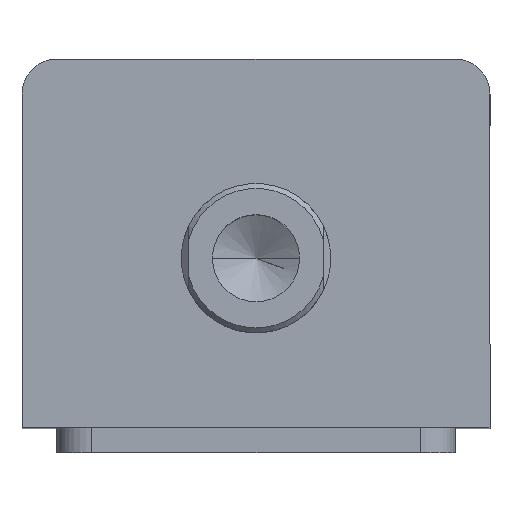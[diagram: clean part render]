
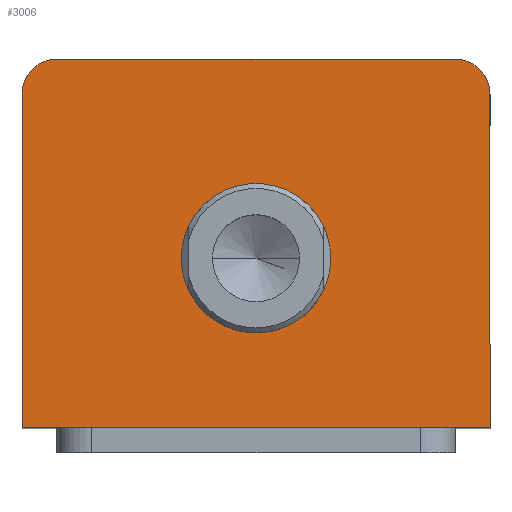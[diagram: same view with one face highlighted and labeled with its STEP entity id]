
A CAD part, top view. The second image highlights one B-rep face of the part: STEP entity #3006.
In plain terms, the highlighted planar face has unit normal (0, 0, 1).
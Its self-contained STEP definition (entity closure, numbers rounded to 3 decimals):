
#51 = VERTEX_POINT ( 'NONE', #2015 ) ;
#54 = VERTEX_POINT ( 'NONE', #2022 ) ;
#58 = VERTEX_POINT ( 'NONE', #2027 ) ;
#60 = VERTEX_POINT ( 'NONE', #2029 ) ;
#75 = VERTEX_POINT ( 'NONE', #2119 ) ;
#98 = VERTEX_POINT ( 'NONE', #2049 ) ;
#99 = VERTEX_POINT ( 'NONE', #2067 ) ;
#107 = VERTEX_POINT ( 'NONE', #2045 ) ;
#483 = ORIENTED_EDGE ( 'NONE', *, *, #2164, .T. ) ;
#505 = ORIENTED_EDGE ( 'NONE', *, *, #2140, .T. ) ;
#515 = ORIENTED_EDGE ( 'NONE', *, *, #2131, .T. ) ;
#545 = ORIENTED_EDGE ( 'NONE', *, *, #1921, .T. ) ;
#546 = ORIENTED_EDGE ( 'NONE', *, *, #1889, .F. ) ;
#547 = ORIENTED_EDGE ( 'NONE', *, *, #2154, .F. ) ;
#569 = ORIENTED_EDGE ( 'NONE', *, *, #1885, .T. ) ;
#575 = ORIENTED_EDGE ( 'NONE', *, *, #2760, .T. ) ;
#691 = LINE ( 'NONE', #2594, #694 ) ;
#694 = VECTOR ( 'NONE', #2593, 1000. ) ;
#818 = FACE_BOUND ( 'NONE', #1604, .T. ) ;
#821 = FACE_OUTER_BOUND ( 'NONE', #1603, .T. ) ;
#1119 = DIRECTION ( 'NONE',  ( 1., 0., 0. ) ) ;
#1120 = DIRECTION ( 'NONE',  ( 0., 0., 1. ) ) ;
#1129 = CARTESIAN_POINT ( 'NONE',  ( 0., 0., 145. ) ) ;
#1131 = PLANE ( 'NONE',  #1763 ) ;
#1245 = DIRECTION ( 'NONE',  ( 1., 0., 0. ) ) ;
#1246 = DIRECTION ( 'NONE',  ( 0., 0., 1. ) ) ;
#1247 = CARTESIAN_POINT ( 'NONE',  ( -40., 30., 145. ) ) ;
#1300 = DIRECTION ( 'NONE',  ( -1., 0., 0. ) ) ;
#1301 = CARTESIAN_POINT ( 'NONE',  ( -47., 37., 145. ) ) ;
#1419 = DIRECTION ( 'NONE',  ( 1., 0., 0. ) ) ;
#1422 = DIRECTION ( 'NONE',  ( 0., 0., 1. ) ) ;
#1423 = CARTESIAN_POINT ( 'NONE',  ( 0., -3., 145. ) ) ;
#1437 = DIRECTION ( 'NONE',  ( 1., 0., 0. ) ) ;
#1438 = DIRECTION ( 'NONE',  ( 0., 0., 1. ) ) ;
#1439 = CARTESIAN_POINT ( 'NONE',  ( 40., 30., 145. ) ) ;
#1603 = EDGE_LOOP ( 'NONE', ( #545, #515, #505, #575, #483, #569 ) ) ;
#1604 = EDGE_LOOP ( 'NONE', ( #547, #546 ) ) ;
#1647 = AXIS2_PLACEMENT_3D ( 'NONE', #1247, #1246, #1245 ) ;
#1651 = AXIS2_PLACEMENT_3D ( 'NONE', #2640, #2637, #2635 ) ;
#1721 = AXIS2_PLACEMENT_3D ( 'NONE', #1423, #1422, #1419 ) ;
#1726 = AXIS2_PLACEMENT_3D ( 'NONE', #1439, #1438, #1437 ) ;
#1763 = AXIS2_PLACEMENT_3D ( 'NONE', #1129, #1120, #1119 ) ;
#1885 = EDGE_CURVE ( 'NONE', #75, #60, #2314, .T. ) ;
#1889 = EDGE_CURVE ( 'NONE', #99, #98, #2324, .T. ) ;
#1921 = EDGE_CURVE ( 'NONE', #60, #58, #2375, .T. ) ;
#2015 = CARTESIAN_POINT ( 'NONE',  ( -47., -37., 145. ) ) ;
#2022 = CARTESIAN_POINT ( 'NONE',  ( -47., 30., 145. ) ) ;
#2027 = CARTESIAN_POINT ( 'NONE',  ( -40., 37., 145. ) ) ;
#2029 = CARTESIAN_POINT ( 'NONE',  ( 40., 37., 145. ) ) ;
#2045 = CARTESIAN_POINT ( 'NONE',  ( 47., -37., 145. ) ) ;
#2049 = CARTESIAN_POINT ( 'NONE',  ( 15., -3., 145. ) ) ;
#2067 = CARTESIAN_POINT ( 'NONE',  ( -15., -3., 145. ) ) ;
#2119 = CARTESIAN_POINT ( 'NONE',  ( 47., 30., 145. ) ) ;
#2131 = EDGE_CURVE ( 'NONE', #58, #54, #2392, .T. ) ;
#2140 = EDGE_CURVE ( 'NONE', #54, #51, #2406, .T. ) ;
#2154 = EDGE_CURVE ( 'NONE', #98, #99, #2433, .T. ) ;
#2164 = EDGE_CURVE ( 'NONE', #107, #75, #2447, .T. ) ;
#2314 = CIRCLE ( 'NONE', #1726, 7. ) ;
#2324 = CIRCLE ( 'NONE', #1721, 15. ) ;
#2375 = LINE ( 'NONE', #1301, #2378 ) ;
#2378 = VECTOR ( 'NONE', #1300, 1000. ) ;
#2392 = CIRCLE ( 'NONE', #1647, 7. ) ;
#2406 = LINE ( 'NONE', #2719, #2409 ) ;
#2409 = VECTOR ( 'NONE', #2722, 1000. ) ;
#2433 = CIRCLE ( 'NONE', #1651, 15. ) ;
#2447 = LINE ( 'NONE', #2554, #2450 ) ;
#2450 = VECTOR ( 'NONE', #2548, 1000. ) ;
#2548 = DIRECTION ( 'NONE',  ( 0., 1., 0. ) ) ;
#2554 = CARTESIAN_POINT ( 'NONE',  ( 47., 37., 145. ) ) ;
#2593 = DIRECTION ( 'NONE',  ( 1., 0., 0. ) ) ;
#2594 = CARTESIAN_POINT ( 'NONE',  ( -47., -37., 145. ) ) ;
#2635 = DIRECTION ( 'NONE',  ( 1., 0., 0. ) ) ;
#2637 = DIRECTION ( 'NONE',  ( 0., 0., 1. ) ) ;
#2640 = CARTESIAN_POINT ( 'NONE',  ( 0., -3., 145. ) ) ;
#2719 = CARTESIAN_POINT ( 'NONE',  ( -47., 37., 145. ) ) ;
#2722 = DIRECTION ( 'NONE',  ( 0., -1., 0. ) ) ;
#2760 = EDGE_CURVE ( 'NONE', #51, #107, #691, .T. ) ;
#3006 = ADVANCED_FACE ( 'NONE', ( #818, #821 ), #1131, .T. ) ;
